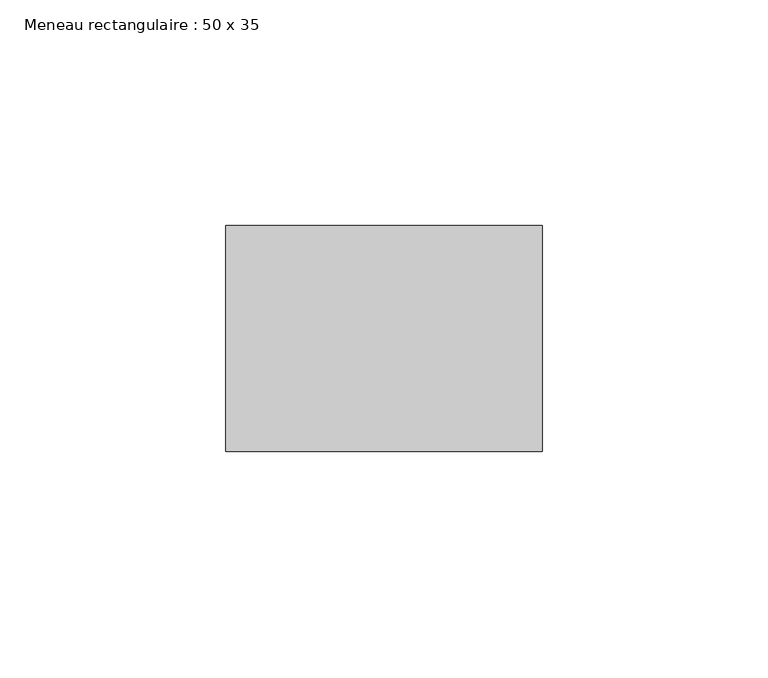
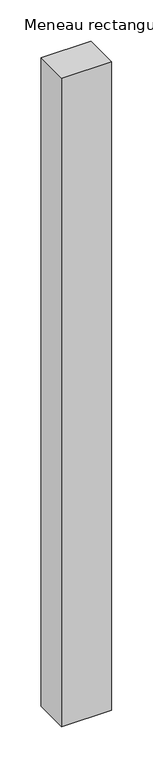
"""IFC4 building model written with IfcOpenShell, lengths in millimetres: member geometry, Meneau rectangulaire : 50 x 35."""

from ifc_helpers import new_model, si_unit, frame, origin, place, context, project, spatial, polyline, outline, extrude, source, transform, mapped, element, save


def meneau_rectangulaire_50_x_35_68966414(model_context):
    return source(origin(), model_context, "Body", "SweptSolid", [
        extrude(outline(polyline([(35.0, 0.0), (35.0, -50.0), (-35.0, -50.0), (-35.0, 0.0), (35.0, 0.0)])), frame((0.0, 0.0, -960.0), z_axis=(0.0, 0.0, 1.0), x_axis=(1.0, 0.0, 0.0)), (0.0, 0.0, 1.0), 960.0),
    ])


if __name__ == "__main__":
    model = new_model("IFC4")
    model_context = context("Model", 3, world=origin())
    ifc_project = project(units=[si_unit("LENGTHUNIT", "METRE", prefix="MILLI")], contexts=[model_context])
    site = spatial("IfcSite", under=ifc_project)
    building = spatial("IfcBuilding", under=site)
    placement = place(None, origin())
    meneau_rectangulaire_50_x_35_shape = meneau_rectangulaire_50_x_35_68966414(model_context)
    element("IfcMember", 1, ObjectType="Meneau rectangulaire : 50 x 35", at=placement, inside=building, context=model_context, shape_type="MappedRepresentation", body=[
        mapped(meneau_rectangulaire_50_x_35_shape, transform((0.0, 0.0, 0.0), x_axis=(1.0, 0.0, 0.0), y_axis=(0.0, 1.0, 0.0), z_axis=(0.0, 0.0, 1.0))),
    ])
    save(model, "model.ifc")
